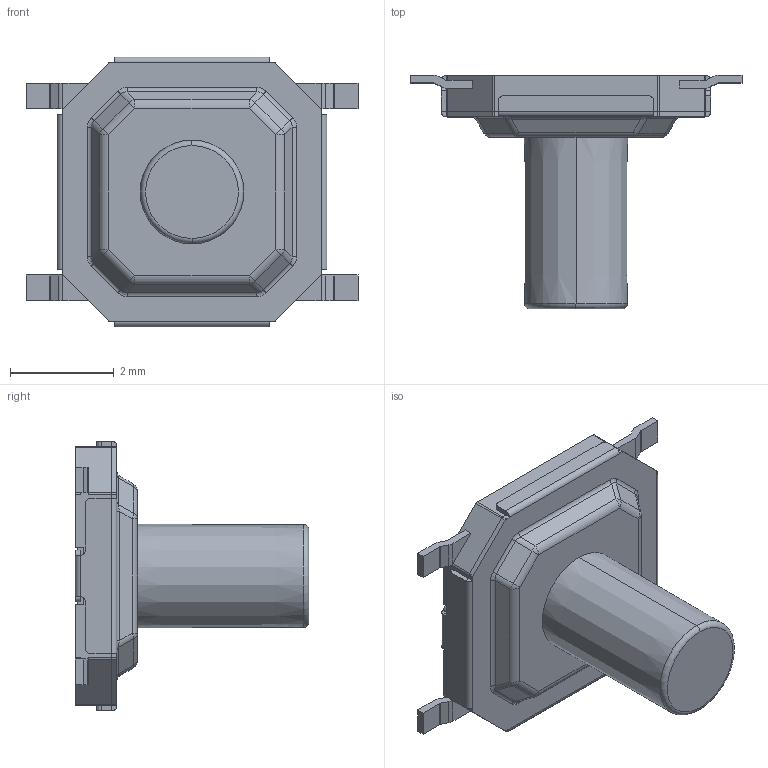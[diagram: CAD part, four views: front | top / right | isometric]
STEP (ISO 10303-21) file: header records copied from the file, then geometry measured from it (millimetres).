
FILE_DESCRIPTION((''),'2;1');
FILE_NAME('JQA5252B-C0155-01BEG-1-101_ASM','2026-08-21T19:03:25',('Admin'),(''),'CREO PARAMETRIC BY PTC INC, 2019224','CREO PARAMETRIC BY PTC INC, 2019224','');
FILE_SCHEMA(('AUTOMOTIVE_DESIGN { 1 0 10303 214 1 1 1 1 }'));
Length unit declared in the file: millimetre
Products named in the file (3): JQA5252B-C0155-01BEG-1-101_01; JQA5252B-C0155-01BEG-1-101_02; JQA5252B-C0155-01BEG-1-101_ASM
Assembly tree (2 placements, depth 2):
  JQA5252B-C0155-01BEG-1-101_ASM
    JQA5252B-C0155-01BEG-1-101_01
    JQA5252B-C0155-01BEG-1-101_02
Bounding box: 6.4 x 4.5 x 5.2 mm (x, y, z)
Volume: 34.6 mm3; surface area: 153.6 mm2
Topology: 3 solids, 3 shells, 366 faces, 874 edges, 518 vertices
Faces by surface type: plane 162, cylinder 136, bspline 40, sphere 24, cone 2, torus 2
Entity records: 13936 total; most frequent: CARTESIAN_POINT 3630, ORIENTED_EDGE 1744, DIRECTION 1732, EDGE_CURVE 872, AXIS2_PLACEMENT_3D 593, VECTOR 546, LINE 546, VERTEX_POINT 514
